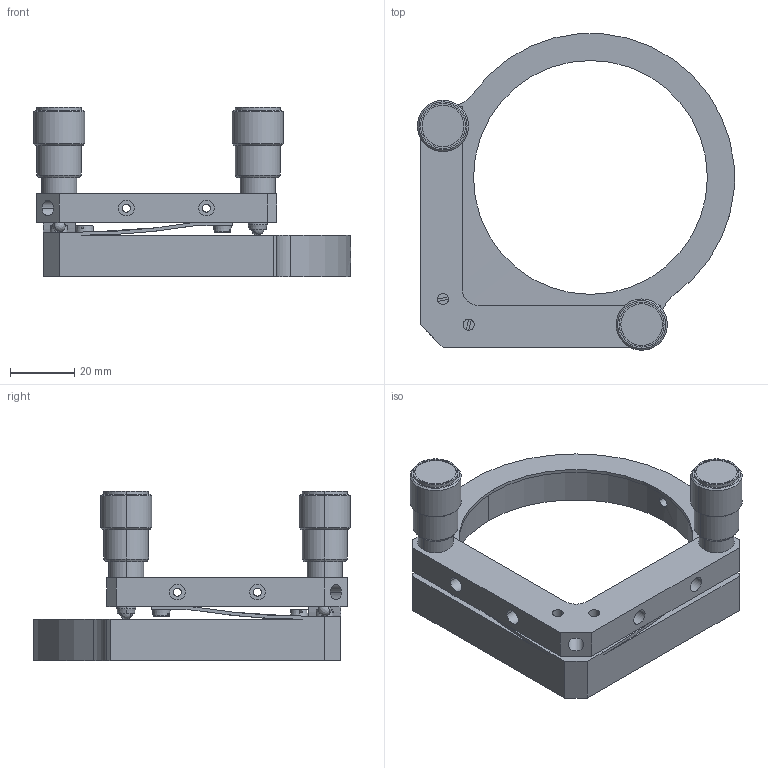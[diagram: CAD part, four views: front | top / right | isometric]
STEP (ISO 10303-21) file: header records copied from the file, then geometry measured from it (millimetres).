
FILE_DESCRIPTION (( 'STEP AP203' ), '1' );
FILE_NAME ('5BM57-3.STEP', '2010-08-11T13:07:55', ( 'ramunas' ), ( '' ), 'SwSTEP 2.0', 'SolidWorks 2003240', '' );
FILE_SCHEMA (( 'CONFIG_CONTROL_DESIGN' ));
Length unit declared in the file: millimetre
Products named in the file (1): 5BM57-3
Bounding box: 99 x 98.85 x 53 mm (x, y, z)
Volume: 62488.8 mm3; surface area: 26898.9 mm2
Topology: 1 solids, 1 shells, 400 faces, 1059 edges, 697 vertices
Faces by surface type: plane 159, bspline 130, cylinder 83, cone 28
Entity records: 25779 total; most frequent: CARTESIAN_POINT 16575, ORIENTED_EDGE 2098, DIRECTION 1497, EDGE_CURVE 1049, VERTEX_POINT 697, VECTOR 537, LINE 537, AXIS2_PLACEMENT_3D 480
